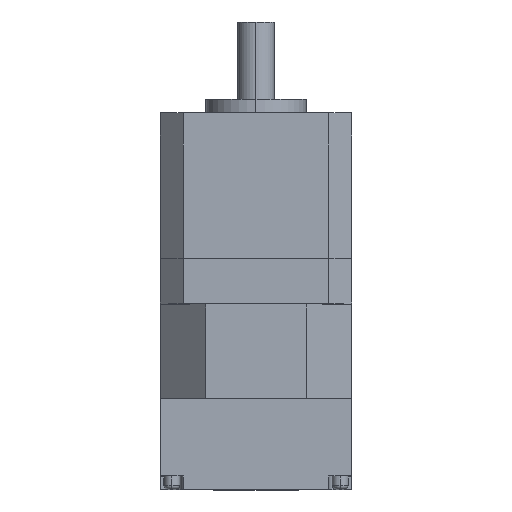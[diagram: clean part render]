
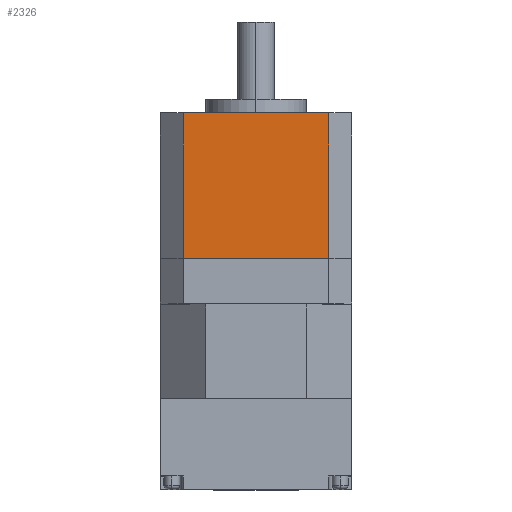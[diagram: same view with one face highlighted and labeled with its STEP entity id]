
A CAD part, top view. The second image highlights one B-rep face of the part: STEP entity #2326.
In plain terms, the highlighted planar face has unit normal (0, 0, 1).
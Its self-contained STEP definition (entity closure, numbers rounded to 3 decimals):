
#178 = CARTESIAN_POINT ( 'NONE',  ( -21., -32., 21. ) ) ;
#564 = CARTESIAN_POINT ( 'NONE',  ( -16., -32., 21. ) ) ;
#729 = VERTEX_POINT ( 'NONE', #4490 ) ;
#777 = EDGE_LOOP ( 'NONE', ( #5558, #5190, #5478, #4952 ) ) ;
#910 = LINE ( 'NONE', #6679, #5567 ) ;
#1014 = LINE ( 'NONE', #2623, #5506 ) ;
#1262 = AXIS2_PLACEMENT_3D ( 'NONE', #178, #4361, #4384 ) ;
#1287 = PLANE ( 'NONE',  #1262 ) ;
#1324 = CARTESIAN_POINT ( 'NONE',  ( -16., -32., 21. ) ) ;
#1524 = DIRECTION ( 'NONE',  ( 1., 0., 0. ) ) ;
#1869 = DIRECTION ( 'NONE',  ( 0., -1., 0. ) ) ;
#1979 = LINE ( 'NONE', #1324, #4125 ) ;
#2326 = ADVANCED_FACE ( 'NONE', ( #5553 ), #1287, .T. ) ;
#2540 = DIRECTION ( 'NONE',  ( 1., 0., 0. ) ) ;
#2623 = CARTESIAN_POINT ( 'NONE',  ( -21., -32., 21. ) ) ;
#2631 = CARTESIAN_POINT ( 'NONE',  ( 16., -32., 21. ) ) ;
#2788 = CARTESIAN_POINT ( 'NONE',  ( -16., 0., 21. ) ) ;
#3092 = CARTESIAN_POINT ( 'NONE',  ( 16., 0., 21. ) ) ;
#3480 = VERTEX_POINT ( 'NONE', #2788 ) ;
#3635 = DIRECTION ( 'NONE',  ( 0., 1., 0. ) ) ;
#3734 = VECTOR ( 'NONE', #3635, 1000. ) ;
#3765 = VERTEX_POINT ( 'NONE', #3092 ) ;
#3862 = VERTEX_POINT ( 'NONE', #564 ) ;
#4125 = VECTOR ( 'NONE', #1869, 1000. ) ;
#4361 = DIRECTION ( 'NONE',  ( 0., 0., 1. ) ) ;
#4384 = DIRECTION ( 'NONE',  ( 1., 0., 0. ) ) ;
#4490 = CARTESIAN_POINT ( 'NONE',  ( 16., -32., 21. ) ) ;
#4952 = ORIENTED_EDGE ( 'NONE', *, *, #4998, .T. ) ;
#4998 = EDGE_CURVE ( 'NONE', #729, #3765, #5928, .T. ) ;
#5190 = ORIENTED_EDGE ( 'NONE', *, *, #5954, .T. ) ;
#5478 = ORIENTED_EDGE ( 'NONE', *, *, #5644, .T. ) ;
#5506 = VECTOR ( 'NONE', #1524, 1000. ) ;
#5553 = FACE_OUTER_BOUND ( 'NONE', #777, .T. ) ;
#5558 = ORIENTED_EDGE ( 'NONE', *, *, #6669, .F. ) ;
#5567 = VECTOR ( 'NONE', #2540, 1000. ) ;
#5644 = EDGE_CURVE ( 'NONE', #3862, #729, #1014, .T. ) ;
#5928 = LINE ( 'NONE', #2631, #3734 ) ;
#5954 = EDGE_CURVE ( 'NONE', #3480, #3862, #1979, .T. ) ;
#6669 = EDGE_CURVE ( 'NONE', #3480, #3765, #910, .T. ) ;
#6679 = CARTESIAN_POINT ( 'NONE',  ( -21., 0., 21. ) ) ;
